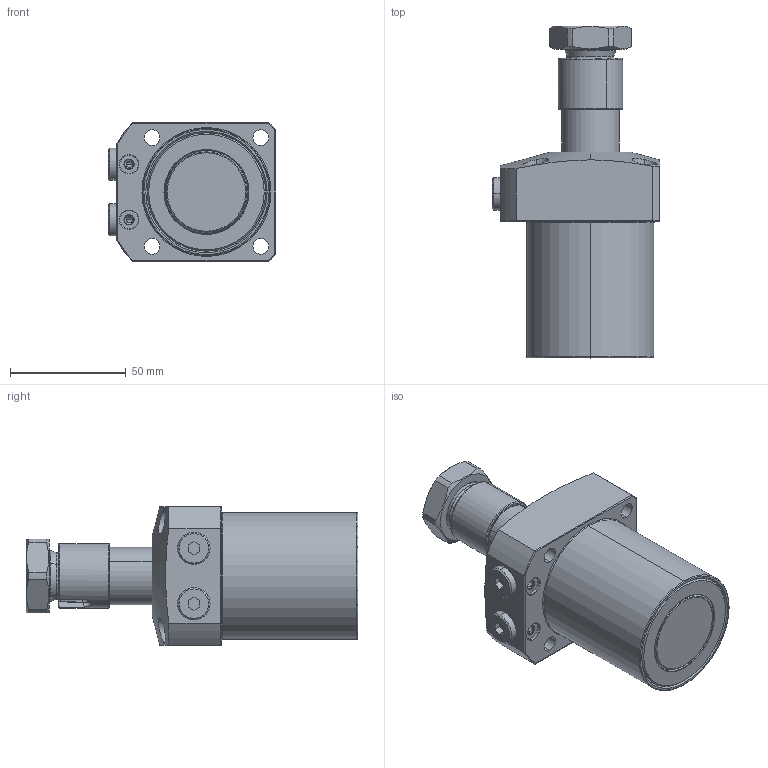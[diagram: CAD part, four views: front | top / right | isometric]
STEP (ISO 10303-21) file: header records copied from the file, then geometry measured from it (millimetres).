
FILE_DESCRIPTION(/* description */ (''),/* implementation_level */ '2;1');
FILE_NAME(/* name */ 'KTRC55-LN60.stp',/* time_stamp */ '2022-11-18T10:31:37+08:00',/* author */ (''),/* organization */ (''),/* preprocessor_version */ 'ST-DEVELOPER v16.7',/* originating_system */ 'SIEMENS PLM Software NX 12.0',/* authorisation */ '');
FILE_SCHEMA (('AP203_CONFIGURATION_CONTROLLED_3D_DESIGN_OF_MECHANICAL_PARTS_AND_ASSEMBLIES_MIM_LF { 1 0 10303 403 2 1 2}'));
Length unit declared in the file: millimetre
Products named in the file (7): KTRC55-LN60-06; KTRC55-LN60-05; KTRC55-LN60-03; KTRC55-LN60-02; KTRC55-LN60-01; KTRC55-LN60-04; LHA0550-CL-Y60_step
Assembly tree (7 placements, depth 2):
  LHA0550-CL-Y60_step
    KTRC55-LN60-04  x2
    KTRC55-LN60-01
    KTRC55-LN60-02
    KTRC55-LN60-03
    KTRC55-LN60-05
    KTRC55-LN60-06
Bounding box: 72.5 x 143.6 x 60 mm (x, y, z)
Volume: 279383.2 mm3; surface area: 44140.6 mm2
Topology: 7 solids, 7 shells, 240 faces, 573 edges, 359 vertices
Faces by surface type: cylinder 81, plane 78, cone 55, torus 24, sphere 2
Entity records: 8108 total; most frequent: CARTESIAN_POINT 1971, DIRECTION 1159, ORIENTED_EDGE 1086, EDGE_CURVE 543, AXIS2_PLACEMENT_3D 477, VERTEX_POINT 341, EDGE_LOOP 254, CIRCLE 242
